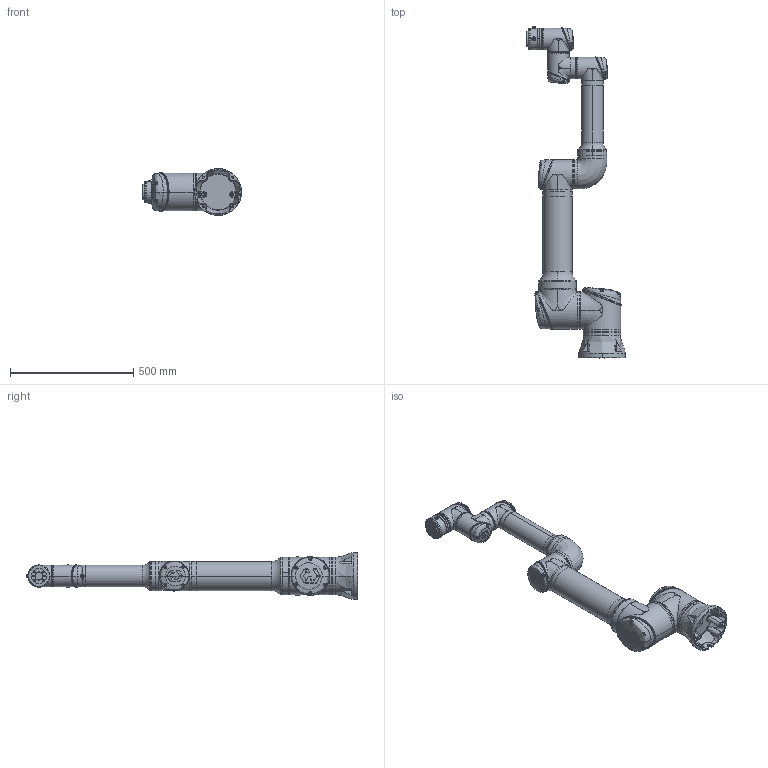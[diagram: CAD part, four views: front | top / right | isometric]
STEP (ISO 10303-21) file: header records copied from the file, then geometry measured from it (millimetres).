
FILE_DESCRIPTION (( 'STEP AP203' ), '1' );
FILE_NAME ('CS_掛极CS616F_V1.1.STEP', '2026-07-27T05:49:20', ( '' ), ( '' ), 'SwSTEP 2.0', 'SolidWorks 2017', '' );
FILE_SCHEMA (( 'CONFIG_CONTROL_DESIGN' ));
Length unit declared in the file: millimetre
Products named in the file (8): CS616F-Link5; CS616F-Link4; CS_掛极CS616F_V1.1; CS616F-Base; CS616F藺傷; CS616F-Link1; CS616F-Link2; CS616F-Link3
Assembly tree (7 placements, depth 2):
  CS_掛极CS616F_V1.1
    CS616F-Base
    CS616F-Link1
    CS616F-Link2
    CS616F-Link3
    CS616F-Link4
    CS616F-Link5
    CS616F藺傷
Bounding box: 401.18 x 1345.5 x 189.7 mm (x, y, z)
Volume: 20852688 mm3; surface area: 1354043.3 mm2
Topology: 81 solids, 94 shells, 5434 faces, 12932 edges, 7690 vertices
Faces by surface type: bspline 2020, plane 1405, cylinder 1085, cone 393, torus 326, sphere 205
Entity records: 443935 total; most frequent: CARTESIAN_POINT 335259, ORIENTED_EDGE 25274, DIRECTION 18717, EDGE_CURVE 12637, AXIS2_PLACEMENT_3D 7903, VERTEX_POINT 7644, EDGE_LOOP 5779, FACE_OUTER_BOUND 5434
